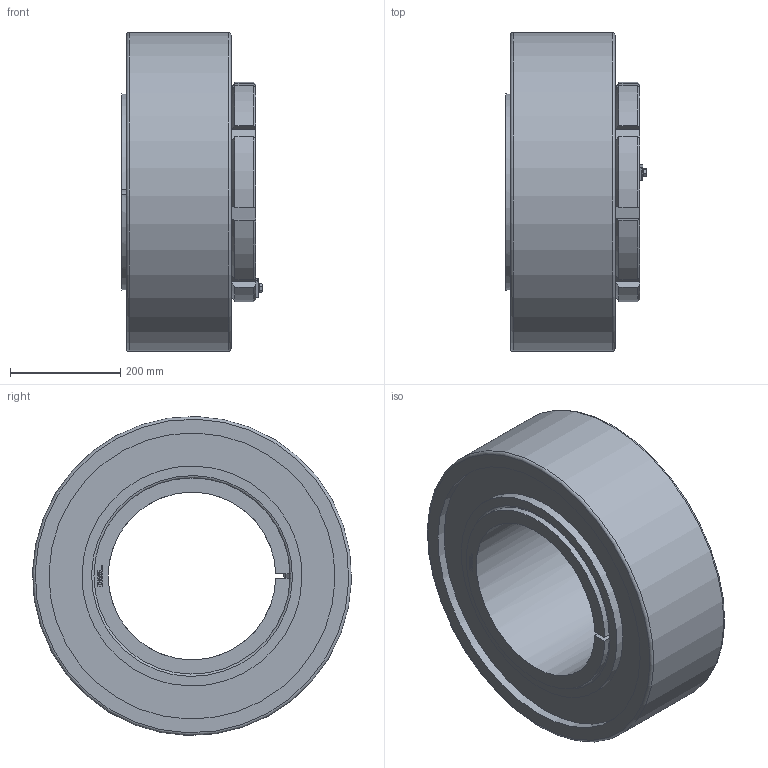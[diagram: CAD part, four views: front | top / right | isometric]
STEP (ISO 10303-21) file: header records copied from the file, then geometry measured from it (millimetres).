
FILE_DESCRIPTION( ( 'STEP AP203' ), ' ' );
FILE_NAME( 'p:/temp/worker_354/4592_3988/app_90_02016102823072544313811192d056f_000000_00_00_000000/format_0/BGL HE 3168 TL+C3168K.stp', '2016-10-28T21:07:27', ( '' ), ( '' ), ' ', 'PARTsolutions', ' ' );
FILE_SCHEMA( ( 'CONFIG_CONTROL_DESIGN' ) );
Length unit declared in the file: millimetre
Products named in the file (6): BGL HE 3168 TL+C3168K; _BGLHE3168TLB; _BGL HM 3068; _BGLHE3168TL+HE-C3168K; _BGL MS 3064-BGL MS 3068part; _BGL MS 3064-BGL MS 3068HHS
Assembly tree (5 placements, depth 2):
  BGL HE 3168 TL+C3168K
    _BGLHE3168TLB
    _BGL HM 3068
    _BGLHE3168TL+HE-C3168K
    _BGL MS 3064-BGL MS 3068part
    _BGL MS 3064-BGL MS 3068HHS
Bounding box: 256.05 x 579.8 x 579.8 mm (x, y, z)
Volume: 35985081.3 mm3; surface area: 1697901.4 mm2
Topology: 5 solids, 5 shells, 351 faces, 899 edges, 589 vertices
Faces by surface type: plane 230, cylinder 79, cone 38, torus 4
Full cylindrical faces by diameter (mm): 8 x9, 9 x1, 14.8 x1, 335 x1, 400 x2, 520 x2, 580 x1
Entity records: 10762 total; most frequent: CARTESIAN_POINT 2104, DIRECTION 1729, ORIENTED_EDGE 1726, EDGE_CURVE 863, VERTEX_POINT 586, AXIS2_PLACEMENT_3D 577, LINE 575, VECTOR 575
